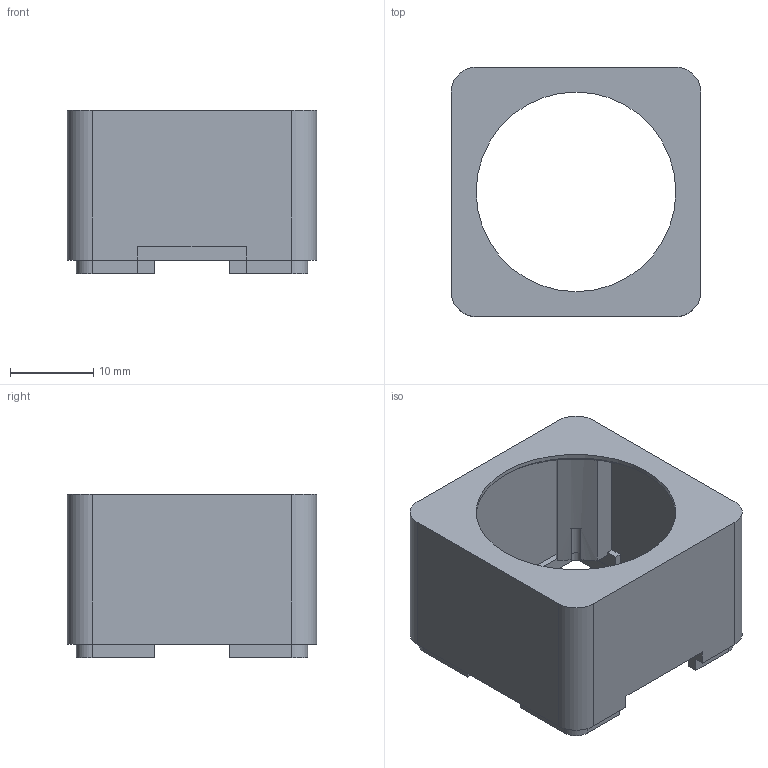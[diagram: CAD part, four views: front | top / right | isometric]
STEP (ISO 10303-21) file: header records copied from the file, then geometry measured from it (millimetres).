
FILE_DESCRIPTION(('FreeCAD Model'),'2;1');
FILE_NAME('Open CASCADE Shape Model','2026-11-25T10:48:50',('FreeCAD'),( 'FreeCAD'),'Open CASCADE STEP processor 7.8','FreeCAD','Unknown');
FILE_SCHEMA(('AUTOMOTIVE_DESIGN { 1 0 10303 214 1 1 1 1 }'));
Length unit declared in the file: millimetre
Products named in the file (1): Open CASCADE STEP translator 7.8 2
Bounding box: 30 x 30 x 19.6 mm (x, y, z)
Volume: 4012.1 mm3; surface area: 5393.8 mm2
Topology: 1 solids, 1 shells, 103 faces, 304 edges, 204 vertices
Faces by surface type: plane 79, cylinder 24
Full cylindrical faces by diameter (mm): 24 x1, 26.4 x1
Entity records: 3442 total; most frequent: CARTESIAN_POINT 612, ORIENTED_EDGE 608, DIRECTION 570, EDGE_CURVE 304, LINE 246, VECTOR 246, VERTEX_POINT 204, AXIS2_PLACEMENT_3D 162
